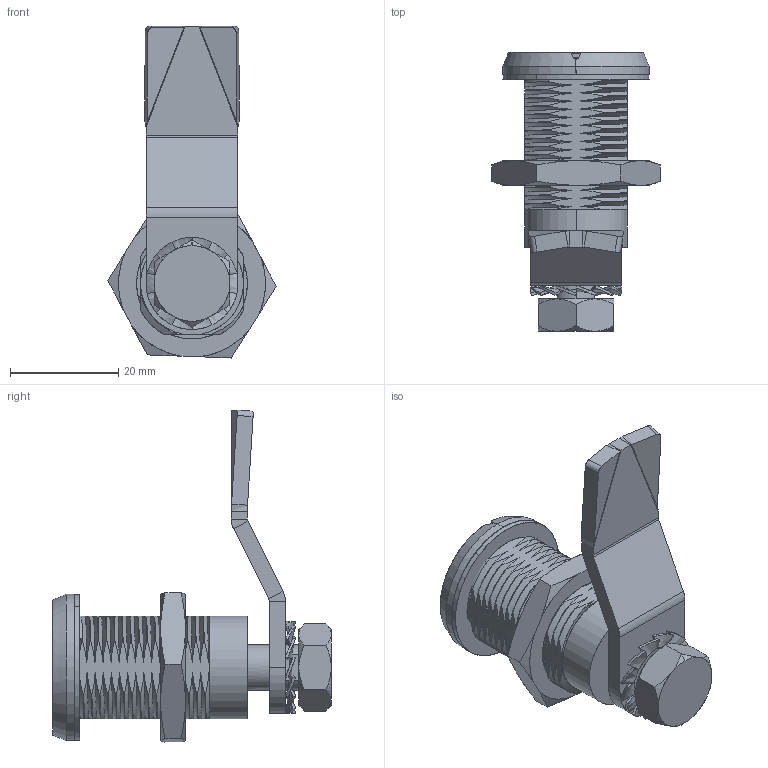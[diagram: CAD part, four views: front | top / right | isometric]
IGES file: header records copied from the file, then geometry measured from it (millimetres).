
Start section: SolidWorks IGES file using analytic representation for surfaces
Global section: file name: D:\尚坤工业图纸\SK1--门锁系列\SK1-016-3\SK1-016-3.IGS; native system: SolidWorks 2015; preprocessor: SolidWorks 2015; author: admin; date: 181101.102211; units: millimetre
Bounding box: 31.16 x 51.5 x 61.37 mm (x, y, z)
Surface area: 10119.3 mm2 (no closed solid volume)
Topology: 0 solids, 0 shells, 505 faces, 4717 edges, 4662 vertices
Faces by surface type: bspline 350, revolution 155
